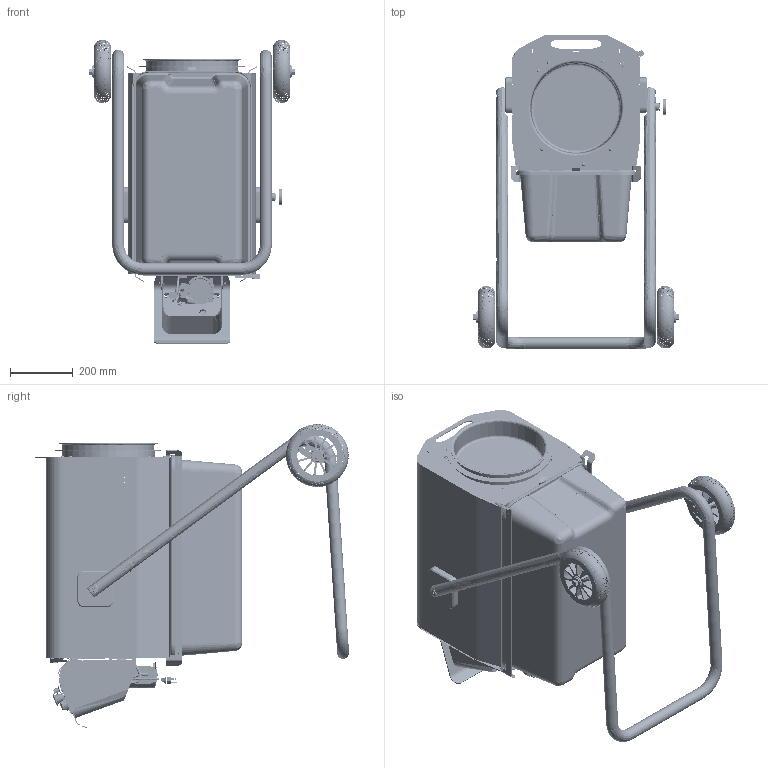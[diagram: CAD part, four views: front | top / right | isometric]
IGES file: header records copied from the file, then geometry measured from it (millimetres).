
Start section: SolidWorks IGES file using analytic representation for surfaces
Global section: file name: C:\Users\Keith.Teeple\Documents\Defeatured Machines\TD25\TD25.IGS; native system: SolidWorks 2023; preprocessor: SolidWorks 2023; author: Keith.Teeple; date: 250204.163114; units: inch
Bounding box: 657.44 x 1001.57 x 969.06 mm (x, y, z)
Surface area: 3949375.8 mm2 (no closed solid volume)
Topology: 0 solids, 0 shells, 1827 faces, 52148 edges, 52138 vertices
Faces by surface type: bspline 1243, revolution 584
